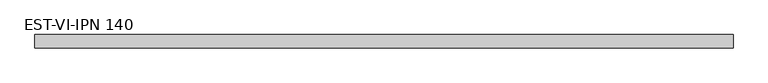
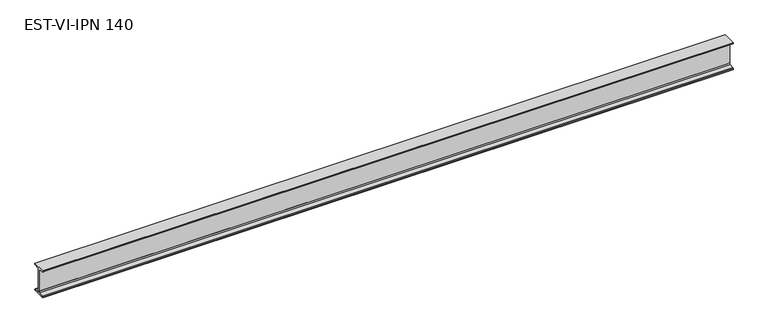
"""IFC4 building model written with IfcOpenShell, lengths in millimetres: beam geometry, EST-VI-PNI-Acero : EST-VI-IPN 140."""

from ifc_helpers import new_model, si_unit, point, frame, frame_2d, origin, place, context, project, spatial, polyline, circle_curve, trimmed, segment, composite_curve, outline, extrude, source, transform, mapped, element, save


def est_vi_ipn_140_ac4d03ab(model_context):
    return source(origin(), model_context, "Body", "SweptSolid", [
        extrude(outline(composite_curve([segment(polyline([(33.0, 70.0), (33.0, 66.6671583)]), True, "CONTINUOUS"), segment(trimmed(circle_curve(frame_2d((29.6, 66.6671583)), 3.4), [point((33.0, 66.6671583))], [point((30.0714027, 63.2999964))], False, "CARTESIAN"), True, "CONTINUOUS"), segment(polyline([(30.0714027, 63.2999964), (7.7597073, 60.176359)]), True, "CONTINUOUS"), segment(trimmed(circle_curve(frame_2d((8.55, 54.5314111)), 5.7), [point((7.7597073, 60.176359))], [point((2.85, 54.5314111))], True, "CARTESIAN"), True, "CONTINUOUS"), segment(polyline([(2.85, 54.5314111), (2.85, -54.5314111)]), True, "CONTINUOUS"), segment(trimmed(circle_curve(frame_2d((8.55, -54.5314111)), 5.7), [point((2.85, -54.5314111))], [point((7.7597073, -60.176359))], True, "CARTESIAN"), True, "CONTINUOUS"), segment(polyline([(7.7597073, -60.176359), (30.0714027, -63.2999964)]), True, "CONTINUOUS"), segment(trimmed(circle_curve(frame_2d((29.6, -66.6671583)), 3.4), [point((30.0714027, -63.2999964))], [point((33.0, -66.6671583))], False, "CARTESIAN"), True, "CONTINUOUS"), segment(polyline([(33.0, -66.6671583), (33.0, -70.0), (-33.0, -70.0), (-33.0, -66.6671583)]), True, "CONTINUOUS"), segment(trimmed(circle_curve(frame_2d((-29.6, -66.6671583)), 3.4), [point((-33.0, -66.6671583))], [point((-30.0714027, -63.2999964))], False, "CARTESIAN"), True, "CONTINUOUS"), segment(polyline([(-30.0714027, -63.2999964), (-7.7597073, -60.176359)]), True, "CONTINUOUS"), segment(trimmed(circle_curve(frame_2d((-8.55, -54.5314111)), 5.7), [point((-7.7597073, -60.176359))], [point((-2.85, -54.5314111))], True, "CARTESIAN"), True, "CONTINUOUS"), segment(polyline([(-2.85, -54.5314111), (-2.85, 54.5314111)]), True, "CONTINUOUS"), segment(trimmed(circle_curve(frame_2d((-8.55, 54.5314111)), 5.7), [point((-2.85, 54.5314111))], [point((-7.7597073, 60.176359))], True, "CARTESIAN"), True, "CONTINUOUS"), segment(polyline([(-7.7597073, 60.176359), (-30.0714027, 63.2999964)]), True, "CONTINUOUS"), segment(trimmed(circle_curve(frame_2d((-29.6, 66.6671583)), 3.4), [point((-30.0714027, 63.2999964))], [point((-33.0, 66.6671583))], False, "CARTESIAN"), True, "CONTINUOUS"), segment(polyline([(-33.0, 66.6671583), (-33.0, 70.0), (33.0, 70.0)]), True, "CONTINUOUS")], self_intersect=False)), frame((-1712.0, 0.0, 0.0), z_axis=(1.0, 0.0, 0.0), x_axis=(0.0, 1.0, 0.0)), (0.0, 0.0, 1.0), 3396.0),
    ])


if __name__ == "__main__":
    model = new_model("IFC4")
    model_context = context("Model", 3, world=origin())
    ifc_project = project(units=[si_unit("LENGTHUNIT", "METRE", prefix="MILLI")], contexts=[model_context])
    site = spatial("IfcSite", under=ifc_project)
    building = spatial("IfcBuilding", under=site)
    placement = place(None, origin())
    est_vi_ipn_140_shape = est_vi_ipn_140_ac4d03ab(model_context)
    element("IfcBeam", 1, ObjectType="EST-VI-PNI-Acero : EST-VI-IPN 140", at=placement, inside=building, context=model_context, shape_type="MappedRepresentation", body=[
        mapped(est_vi_ipn_140_shape, transform((0.0, 0.0, 0.0), x_axis=(1.0, 0.0, 0.0), y_axis=(0.0, 1.0, 0.0), z_axis=(0.0, 0.0, 1.0))),
    ])
    save(model, "model.ifc")
